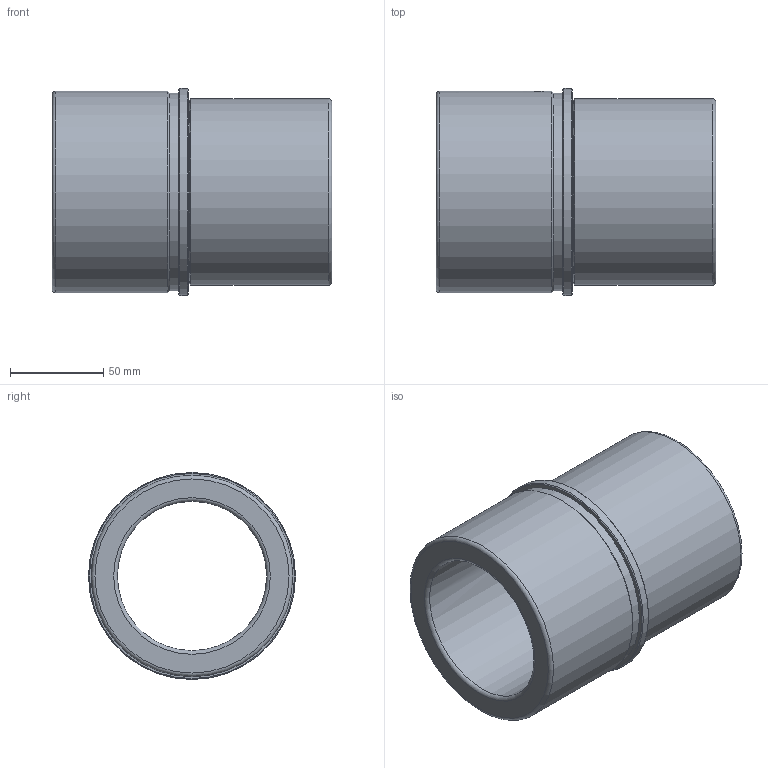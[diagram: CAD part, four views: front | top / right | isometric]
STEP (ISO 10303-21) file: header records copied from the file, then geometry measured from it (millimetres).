
FILE_DESCRIPTION( ( 'STEP AP214' ), '1' );
FILE_NAME( 'p:/temp/worker_30/temp/exporttempdir_4612_80_49EdW/format_2/WZ - 4051 80 x 150.stp', '2020-12-04T19:44:29', ( 'License CC BY-ND 4.0' ), ( 'CADENAS' ), ' ', 'PARTsolutions', ' ' );
FILE_SCHEMA( ( 'AUTOMOTIVE_DESIGN { 1 0 10303 214 1 1 1 1 }' ) );
Length unit declared in the file: millimetre
Products named in the file (1): _WZ - 4051 80 x 150
Bounding box: 150 x 111 x 111 mm (x, y, z)
Volume: 517512.3 mm3; surface area: 96382.4 mm2
Topology: 1 solids, 1 shells, 21 faces, 38 edges, 22 vertices
Faces by surface type: cylinder 7, cone 5, plane 5, torus 4
Full cylindrical faces by diameter (mm): 8.376 x1, 80 x1, 98 x1, 100 x1, 106 x1, 108 x1, 111 x1
Entity records: 750 total; most frequent: CARTESIAN_POINT 196, DIRECTION 84, EDGE_LOOP 44, ORIENTED_EDGE 44, AXIS2_PLACEMENT_3D 42, FACE_OUTER_BOUND 32, EDGE_CURVE 22, VERTEX_POINT 22
